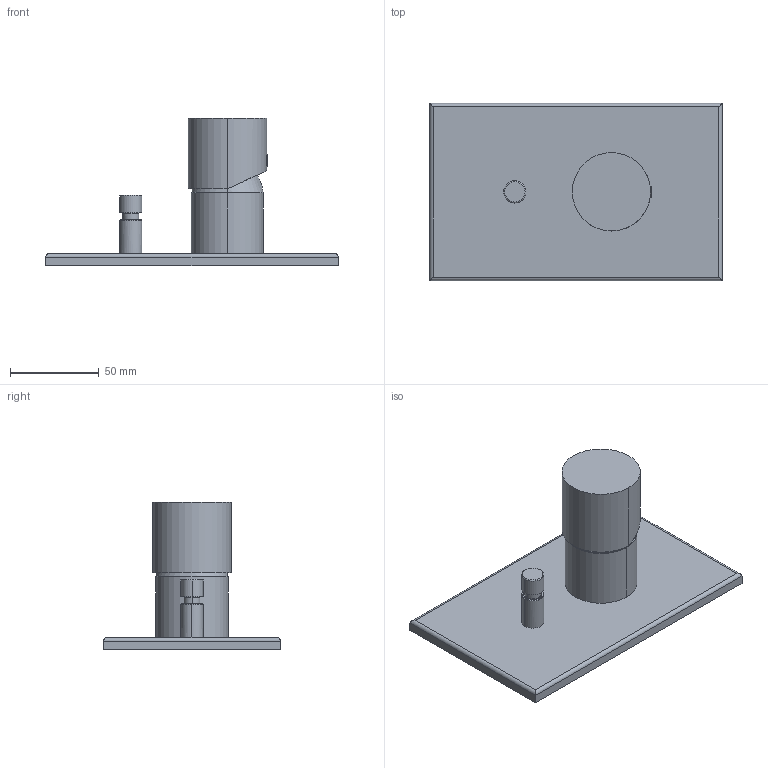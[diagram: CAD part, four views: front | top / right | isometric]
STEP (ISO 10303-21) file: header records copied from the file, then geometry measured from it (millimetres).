
FILE_DESCRIPTION((''),'2;1');
FILE_NAME('F3859X2_FILE_3D','2015-09-29T',('ivanv'),(''),'PRO/ENGINEER BY PARAMETRIC TECHNOLOGY CORPORATION, 2012130','PRO/ENGINEER BY PARAMETRIC TECHNOLOGY CORPORATION, 2012130','');
FILE_SCHEMA(('CONFIG_CONTROL_DESIGN'));
Length unit declared in the file: millimetre
Products named in the file (1): F3859X2_FILE_3D
Bounding box: 165 x 100 x 83.5 mm (x, y, z)
Volume: 146108.2 mm3; surface area: 64562.9 mm2
Topology: 2 solids, 4 shells, 158 faces, 395 edges, 248 vertices
Faces by surface type: plane 58, cylinder 55, cone 33, torus 8, bspline 2, sphere 2
Entity records: 6310 total; most frequent: CARTESIAN_POINT 2615, ORIENTED_EDGE 782, DIRECTION 724, EDGE_CURVE 391, AXIS2_PLACEMENT_3D 289, VERTEX_POINT 248, EDGE_LOOP 179, FACE_OUTER_BOUND 158
